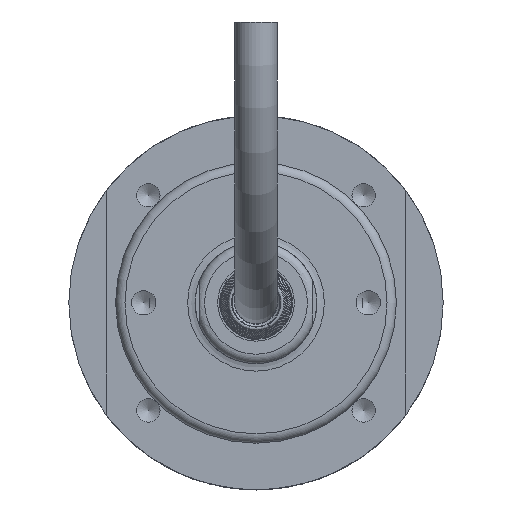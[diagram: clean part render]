
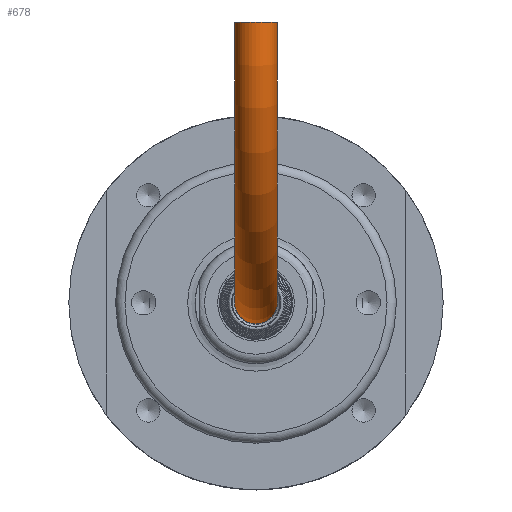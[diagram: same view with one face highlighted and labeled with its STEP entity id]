
A CAD part, front view. The second image highlights one B-rep face of the part: STEP entity #678.
In plain terms, the highlighted toroidal (fillet/blend) face has major radius 30 mm and minor radius 2.25 mm.
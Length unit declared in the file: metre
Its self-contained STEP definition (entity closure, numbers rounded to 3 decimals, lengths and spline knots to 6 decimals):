
#678 = ADVANCED_FACE( '', ( #885, #886 ), #887, .T. );
#885 = FACE_OUTER_BOUND( '', #12598, .T. );
#886 = FACE_OUTER_BOUND( '', #12599, .T. );
#887 = TOROIDAL_SURFACE( '', #12600, 0.03, 0.00225 );
#12598 = EDGE_LOOP( '', ( #13010 ) );
#12599 = EDGE_LOOP( '', ( #13011 ) );
#12600 = AXIS2_PLACEMENT_3D( '', #13012, #13013, #13014 );
#13010 = ORIENTED_EDGE( '', *, *, #13241, .T. );
#13011 = ORIENTED_EDGE( '', *, *, #13242, .F. );
#13012 = CARTESIAN_POINT( '', ( 0., -0.043, 0.03 ) );
#13013 = DIRECTION( '', ( -1., 0., 0. ) );
#13014 = DIRECTION( '', ( 0., 1., 0. ) );
#13241 = EDGE_CURVE( '', #13670, #13670, #13671, .T. );
#13242 = EDGE_CURVE( '', #13672, #13672, #13673, .T. );
#13670 = VERTEX_POINT( '', #18488 );
#13671 = CIRCLE( '', #18489, 0.00225 );
#13672 = VERTEX_POINT( '', #18490 );
#13673 = CIRCLE( '', #18491, 0.00225 );
#18488 = CARTESIAN_POINT( '', ( 0.00225, -0.043, 0. ) );
#18489 = AXIS2_PLACEMENT_3D( '', #18921, #18922, #18923 );
#18490 = CARTESIAN_POINT( '', ( 0., -0.07075, 0.03 ) );
#18491 = AXIS2_PLACEMENT_3D( '', #18924, #18925, #18926 );
#18921 = CARTESIAN_POINT( '', ( 0., -0.043, 0. ) );
#18922 = DIRECTION( '', ( 0., -1., 0. ) );
#18923 = DIRECTION( '', ( 1., 0., 0. ) );
#18924 = CARTESIAN_POINT( '', ( 0., -0.073, 0.03 ) );
#18925 = DIRECTION( '', ( 0., 0., 1. ) );
#18926 = DIRECTION( '', ( 0., 1., 0. ) );
